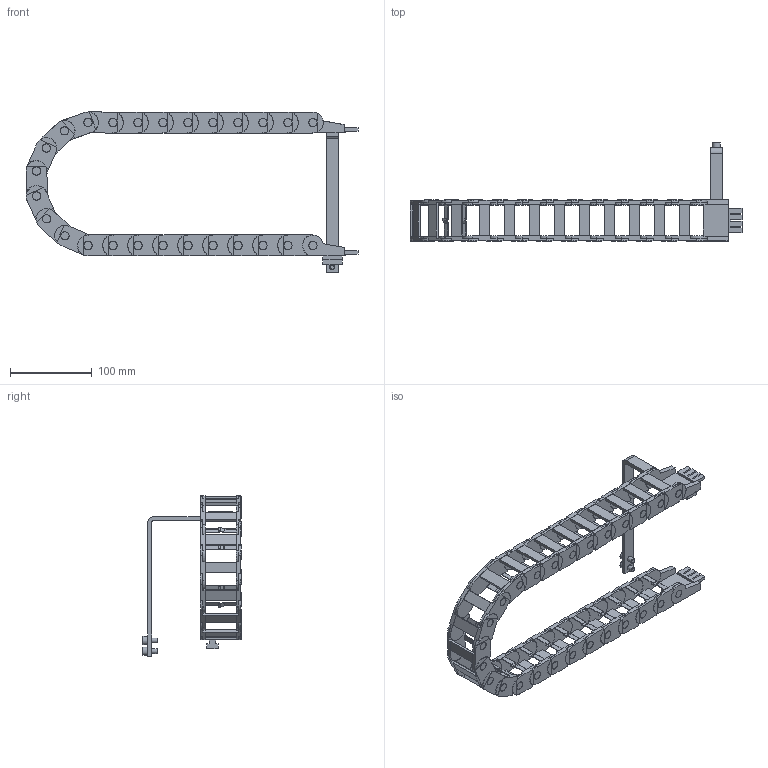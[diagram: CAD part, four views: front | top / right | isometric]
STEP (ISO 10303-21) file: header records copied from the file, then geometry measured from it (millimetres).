
FILE_DESCRIPTION( ( 'STEP AP214' ), '1' );
FILE_NAME( 'U:/Etudes/Top Solid/BIBLIO 3D AVM/STEP/STEP2007LINMOT/8319426.step', '2007-06-07T09:42:10', ( ' ' ), ( ' ' ), 'XStep 1.0', ' ', ' ' );
FILE_SCHEMA( ( 'automotive_design' ) );
Length unit declared in the file: metre
Products named in the file (27): 1; 2; 3; 4; 5; 6; 7; 8; 9; 10; 11; 12; 13; 14; 15; 16; 17; 18; 19; 20; 21; 22; 23; 24; 25; 26; 27
Bounding box: 405.21 x 120 x 195.5 mm (x, y, z)
Volume: 310646.3 mm3; surface area: 232143.5 mm2
Topology: 27 solids, 27 shells, 2070 faces, 5857 edges, 3902 vertices
Faces by surface type: plane 1559, cylinder 509, cone 2
Full cylindrical faces by diameter (mm): 6 x4, 6.5 x2, 10 x2
Entity records: 84149 total; most frequent: CARTESIAN_POINT 11900, ORIENTED_EDGE 11682, DIRECTION 11453, EDGE_CURVE 5841, LINE 4419, VECTOR 4419, VERTEX_POINT 3896, AXIS2_PLACEMENT_3D 3517
